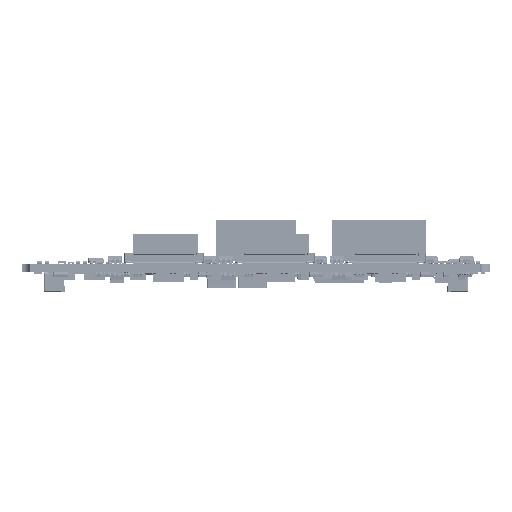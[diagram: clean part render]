
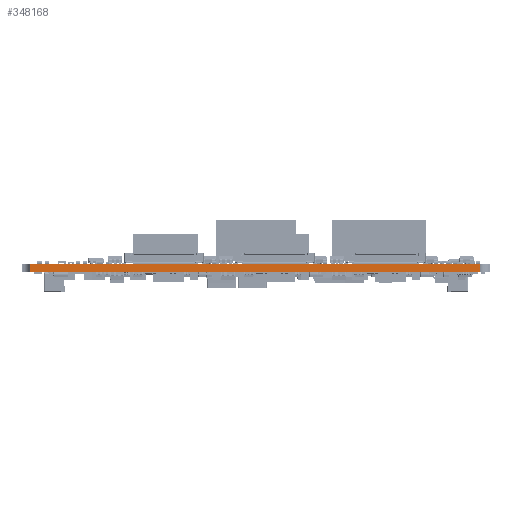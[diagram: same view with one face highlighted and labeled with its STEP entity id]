
A CAD part, front view. The second image highlights one B-rep face of the part: STEP entity #348168.
In plain terms, the highlighted planar face has unit normal (0, -1, 0).
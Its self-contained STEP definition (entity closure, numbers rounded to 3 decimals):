
#118=DIRECTION('',(1.,0.,0.));
#119=VECTOR('',#118,88.5);
#120=CARTESIAN_POINT('',(104.001,-153.004,0.));
#121=LINE('',#120,#119);
#122=DIRECTION('',(0.,0.,-1.));
#123=VECTOR('',#122,1.6);
#124=CARTESIAN_POINT('',(104.001,-153.004,1.6));
#125=LINE('',#124,#123);
#126=DIRECTION('',(-1.,0.,0.));
#127=VECTOR('',#126,88.5);
#128=CARTESIAN_POINT('',(192.501,-153.004,1.6));
#129=LINE('',#128,#127);
#134=DIRECTION('',(0.,0.,-1.));
#135=VECTOR('',#134,1.6);
#136=CARTESIAN_POINT('',(192.501,-153.004,1.6));
#137=LINE('',#136,#135);
#267105=CARTESIAN_POINT('',(192.501,-153.004,0.));
#267106=VERTEX_POINT('',#267105);
#267107=CARTESIAN_POINT('',(104.001,-153.004,0.));
#267108=VERTEX_POINT('',#267107);
#267185=CARTESIAN_POINT('',(192.501,-153.004,1.6));
#267186=VERTEX_POINT('',#267185);
#267187=CARTESIAN_POINT('',(104.001,-153.004,1.6));
#267188=VERTEX_POINT('',#267187);
#348154=CARTESIAN_POINT('',(192.501,-153.004,0.));
#348155=DIRECTION('',(0.,-1.,0.));
#348156=DIRECTION('',(-1.,0.,0.));
#348157=AXIS2_PLACEMENT_3D('',#348154,#348155,#348156);
#348158=PLANE('',#348157);
#348160=ORIENTED_EDGE('',*,*,#348159,.T.);
#348162=ORIENTED_EDGE('',*,*,#348161,.F.);
#348163=ORIENTED_EDGE('',*,*,#348144,.F.);
#348165=ORIENTED_EDGE('',*,*,#348164,.F.);
#348166=EDGE_LOOP('',(#348160,#348162,#348163,#348165));
#348167=FACE_OUTER_BOUND('',#348166,.F.);
#348168=ADVANCED_FACE('',(#348167),#348158,.T.);
#348144=EDGE_CURVE('',#267188,#267108,#125,.T.);
#348159=EDGE_CURVE('',#267186,#267106,#137,.T.);
#348161=EDGE_CURVE('',#267108,#267106,#121,.T.);
#348164=EDGE_CURVE('',#267186,#267188,#129,.T.);
